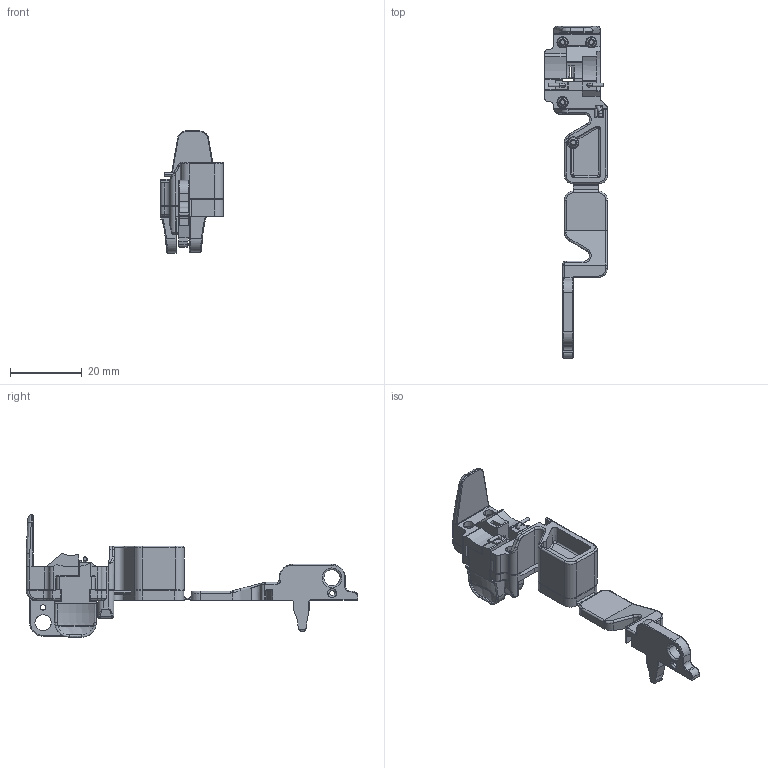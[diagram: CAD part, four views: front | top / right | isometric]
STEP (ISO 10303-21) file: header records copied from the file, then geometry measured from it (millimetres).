
FILE_DESCRIPTION (( 'STEP AP214' ), '1' );
FILE_NAME ('OD-LT-VU01.STEP', '2018-09-10T09:28:33', ( '' ), ( '' ), 'SwSTEP 2.0', 'SolidWorks 2015', '' );
FILE_SCHEMA (( 'AUTOMOTIVE_DESIGN' ));
Length unit declared in the file: millimetre
Products named in the file (1): OD-LT-VU01
Bounding box: 17.5 x 92.5 x 34.05 mm (x, y, z)
Volume: 6938.5 mm3; surface area: 8936.3 mm2
Topology: 4 solids, 4 shells, 810 faces, 2134 edges, 1298 vertices
Faces by surface type: cylinder 305, plane 258, bspline 202, cone 37, torus 8
Entity records: 42142 total; most frequent: CARTESIAN_POINT 14604, ORIENTED_EDGE 4186, DIRECTION 3604, EDGE_CURVE 2093, AXIS2_PLACEMENT_3D 1309, VERTEX_POINT 1298, VECTOR 986, LINE 986
